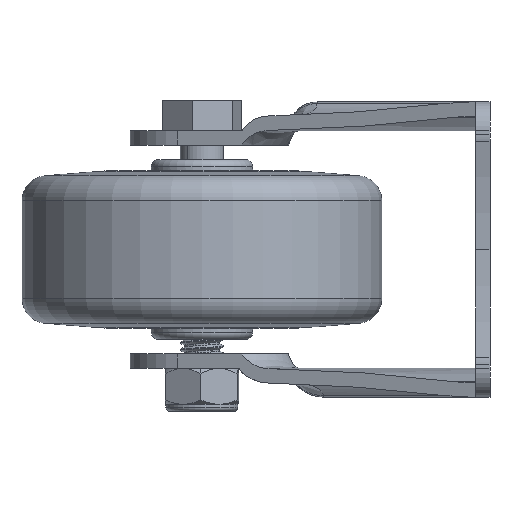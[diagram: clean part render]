
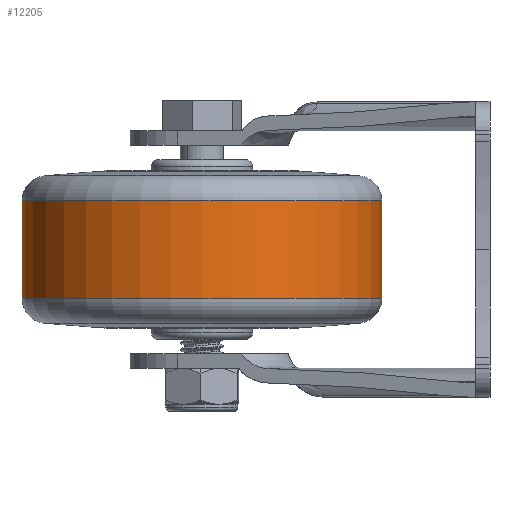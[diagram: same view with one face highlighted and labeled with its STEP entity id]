
A CAD part, left-side view. The second image highlights one B-rep face of the part: STEP entity #12205.
In plain terms, the highlighted cylindrical face has radius 25 mm (diameter 50 mm), a partial arc.
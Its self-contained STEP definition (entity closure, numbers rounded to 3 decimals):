
#57 = VERTEX_POINT ( 'NONE', #5995 ) ;
#2110 = VERTEX_POINT ( 'NONE', #19486 ) ;
#3440 = ORIENTED_EDGE ( 'NONE', *, *, #16691, .F. ) ;
#3453 = EDGE_CURVE ( 'NONE', #10342, #13051, #15906, .T. ) ;
#4161 = CARTESIAN_POINT ( 'NONE',  ( 0., 6.767, 0. ) ) ;
#4264 = LINE ( 'NONE', #19916, #9498 ) ;
#5267 = ORIENTED_EDGE ( 'NONE', *, *, #5441, .F. ) ;
#5441 = EDGE_CURVE ( 'NONE', #10342, #57, #15492, .T. ) ;
#5995 = CARTESIAN_POINT ( 'NONE',  ( 0., -6.767, 25. ) ) ;
#6937 = FACE_OUTER_BOUND ( 'NONE', #20240, .T. ) ;
#7434 = DIRECTION ( 'NONE',  ( 0., -1., 0. ) ) ;
#7897 = DIRECTION ( 'NONE',  ( 0., -1., 0. ) ) ;
#9274 = DIRECTION ( 'NONE',  ( 0., -1., 0. ) ) ;
#9498 = VECTOR ( 'NONE', #21783, 1000. ) ;
#10342 = VERTEX_POINT ( 'NONE', #23415 ) ;
#10741 = AXIS2_PLACEMENT_3D ( 'NONE', #4161, #7897, #22694 ) ;
#11041 = CARTESIAN_POINT ( 'NONE',  ( 0., 0., 0. ) ) ;
#11255 = DIRECTION ( 'NONE',  ( 0., 0., -1. ) ) ;
#12205 = ADVANCED_FACE ( 'NONE', ( #6937 ), #14655, .T. ) ;
#12883 = ORIENTED_EDGE ( 'NONE', *, *, #3453, .T. ) ;
#13051 = VERTEX_POINT ( 'NONE', #15098 ) ;
#13539 = AXIS2_PLACEMENT_3D ( 'NONE', #11041, #7434, #18860 ) ;
#14120 = AXIS2_PLACEMENT_3D ( 'NONE', #17348, #21063, #11255 ) ;
#14655 = CYLINDRICAL_SURFACE ( 'NONE', #13539, 25. ) ;
#15098 = CARTESIAN_POINT ( 'NONE',  ( 0., 6.767, -25. ) ) ;
#15492 = LINE ( 'NONE', #22936, #20539 ) ;
#15906 = CIRCLE ( 'NONE', #10741, 25. ) ;
#16691 = EDGE_CURVE ( 'NONE', #57, #2110, #17287, .T. ) ;
#17287 = CIRCLE ( 'NONE', #14120, 25. ) ;
#17348 = CARTESIAN_POINT ( 'NONE',  ( 0., -6.767, 0. ) ) ;
#17541 = ORIENTED_EDGE ( 'NONE', *, *, #22805, .T. ) ;
#18860 = DIRECTION ( 'NONE',  ( 0., 0., -1. ) ) ;
#19486 = CARTESIAN_POINT ( 'NONE',  ( 0., -6.767, -25. ) ) ;
#19916 = CARTESIAN_POINT ( 'NONE',  ( 0., 0., -25. ) ) ;
#20240 = EDGE_LOOP ( 'NONE', ( #5267, #12883, #17541, #3440 ) ) ;
#20539 = VECTOR ( 'NONE', #9274, 1000. ) ;
#21063 = DIRECTION ( 'NONE',  ( 0., -1., 0. ) ) ;
#21783 = DIRECTION ( 'NONE',  ( 0., -1., 0. ) ) ;
#22694 = DIRECTION ( 'NONE',  ( 0., 0., -1. ) ) ;
#22805 = EDGE_CURVE ( 'NONE', #13051, #2110, #4264, .T. ) ;
#22936 = CARTESIAN_POINT ( 'NONE',  ( 0., 0., 25. ) ) ;
#23415 = CARTESIAN_POINT ( 'NONE',  ( 0., 6.767, 25. ) ) ;
